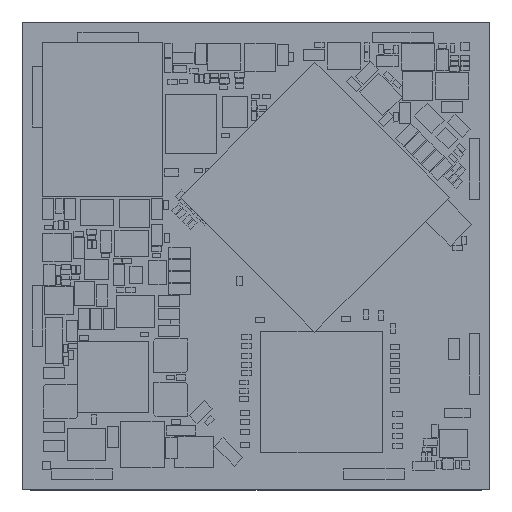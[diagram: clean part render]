
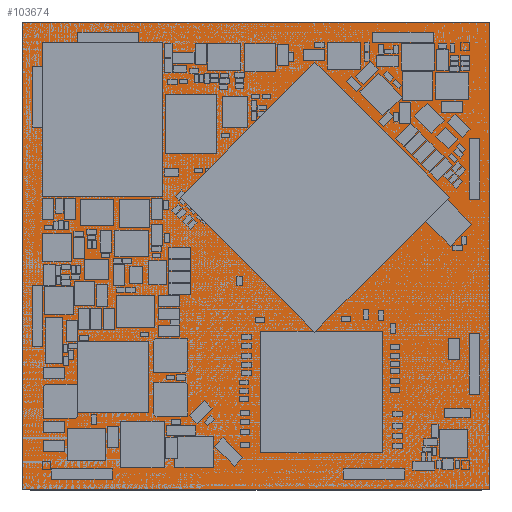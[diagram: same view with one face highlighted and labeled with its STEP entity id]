
A CAD part, top view. The second image highlights one B-rep face of the part: STEP entity #103674.
In plain terms, the highlighted planar face has unit normal (0, 0, 1).
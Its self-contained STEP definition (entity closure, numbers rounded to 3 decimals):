
#103360 = VERTEX_POINT('',#103361);
#103361 = CARTESIAN_POINT('',(0.026,-0.014,0.1));
#103368 = PLANE('',#103369);
#103369 = AXIS2_PLACEMENT_3D('',#103370,#103371,#103372);
#103370 = CARTESIAN_POINT('',(0.026,-0.014,0.));
#103371 = DIRECTION('',(1.,0.,0.));
#103372 = DIRECTION('',(0.,-1.,0.));
#103380 = PLANE('',#103381);
#103381 = AXIS2_PLACEMENT_3D('',#103382,#103383,#103384);
#103382 = CARTESIAN_POINT('',(55.036,-0.014,0.));
#103383 = DIRECTION('',(0.,-1.,0.));
#103384 = DIRECTION('',(-1.,0.,0.));
#103392 = EDGE_CURVE('',#103360,#103393,#103395,.T.);
#103393 = VERTEX_POINT('',#103394);
#103394 = CARTESIAN_POINT('',(0.026,-55.034,0.1));
#103395 = SURFACE_CURVE('',#103396,(#103400,#103407),.PCURVE_S1.);
#103396 = LINE('',#103397,#103398);
#103397 = CARTESIAN_POINT('',(0.026,-0.014,0.1));
#103398 = VECTOR('',#103399,1.);
#103399 = DIRECTION('',(0.,-1.,0.));
#103400 = PCURVE('',#103368,#103401);
#103401 = DEFINITIONAL_REPRESENTATION('',(#103402),#103406);
#103402 = LINE('',#103403,#103404);
#103403 = CARTESIAN_POINT('',(0.,-0.1));
#103404 = VECTOR('',#103405,1.);
#103405 = DIRECTION('',(1.,0.));
#103406 = ( GEOMETRIC_REPRESENTATION_CONTEXT(2) 
PARAMETRIC_REPRESENTATION_CONTEXT() REPRESENTATION_CONTEXT('2D SPACE',''
  ) );
#103407 = PCURVE('',#103408,#103413);
#103408 = PLANE('',#103409);
#103409 = AXIS2_PLACEMENT_3D('',#103410,#103411,#103412);
#103410 = CARTESIAN_POINT('',(27.531,-27.524,0.1));
#103411 = DIRECTION('',(0.,0.,1.));
#103412 = DIRECTION('',(1.,0.,0.));
#103413 = DEFINITIONAL_REPRESENTATION('',(#103414),#103418);
#103414 = LINE('',#103415,#103416);
#103415 = CARTESIAN_POINT('',(-27.505,27.51));
#103416 = VECTOR('',#103417,1.);
#103417 = DIRECTION('',(0.,-1.));
#103418 = ( GEOMETRIC_REPRESENTATION_CONTEXT(2) 
PARAMETRIC_REPRESENTATION_CONTEXT() REPRESENTATION_CONTEXT('2D SPACE',''
  ) );
#103436 = PLANE('',#103437);
#103437 = AXIS2_PLACEMENT_3D('',#103438,#103439,#103440);
#103438 = CARTESIAN_POINT('',(0.026,-55.034,0.));
#103439 = DIRECTION('',(0.,1.,0.));
#103440 = DIRECTION('',(1.,0.,0.));
#103478 = EDGE_CURVE('',#103393,#103479,#103481,.T.);
#103479 = VERTEX_POINT('',#103480);
#103480 = CARTESIAN_POINT('',(55.036,-55.034,0.1));
#103481 = SURFACE_CURVE('',#103482,(#103486,#103493),.PCURVE_S1.);
#103482 = LINE('',#103483,#103484);
#103483 = CARTESIAN_POINT('',(0.026,-55.034,0.1));
#103484 = VECTOR('',#103485,1.);
#103485 = DIRECTION('',(1.,0.,0.));
#103486 = PCURVE('',#103436,#103487);
#103487 = DEFINITIONAL_REPRESENTATION('',(#103488),#103492);
#103488 = LINE('',#103489,#103490);
#103489 = CARTESIAN_POINT('',(0.,-0.1));
#103490 = VECTOR('',#103491,1.);
#103491 = DIRECTION('',(1.,0.));
#103492 = ( GEOMETRIC_REPRESENTATION_CONTEXT(2) 
PARAMETRIC_REPRESENTATION_CONTEXT() REPRESENTATION_CONTEXT('2D SPACE',''
  ) );
#103493 = PCURVE('',#103408,#103494);
#103494 = DEFINITIONAL_REPRESENTATION('',(#103495),#103499);
#103495 = LINE('',#103496,#103497);
#103496 = CARTESIAN_POINT('',(-27.505,-27.51));
#103497 = VECTOR('',#103498,1.);
#103498 = DIRECTION('',(1.,0.));
#103499 = ( GEOMETRIC_REPRESENTATION_CONTEXT(2) 
PARAMETRIC_REPRESENTATION_CONTEXT() REPRESENTATION_CONTEXT('2D SPACE',''
  ) );
#103517 = PLANE('',#103518);
#103518 = AXIS2_PLACEMENT_3D('',#103519,#103520,#103521);
#103519 = CARTESIAN_POINT('',(55.036,-55.034,0.));
#103520 = DIRECTION('',(-1.,0.,0.));
#103521 = DIRECTION('',(0.,1.,0.));
#103554 = EDGE_CURVE('',#103479,#103555,#103557,.T.);
#103555 = VERTEX_POINT('',#103556);
#103556 = CARTESIAN_POINT('',(55.036,-0.014,0.1));
#103557 = SURFACE_CURVE('',#103558,(#103562,#103569),.PCURVE_S1.);
#103558 = LINE('',#103559,#103560);
#103559 = CARTESIAN_POINT('',(55.036,-55.034,0.1));
#103560 = VECTOR('',#103561,1.);
#103561 = DIRECTION('',(0.,1.,0.));
#103562 = PCURVE('',#103517,#103563);
#103563 = DEFINITIONAL_REPRESENTATION('',(#103564),#103568);
#103564 = LINE('',#103565,#103566);
#103565 = CARTESIAN_POINT('',(0.,-0.1));
#103566 = VECTOR('',#103567,1.);
#103567 = DIRECTION('',(1.,0.));
#103568 = ( GEOMETRIC_REPRESENTATION_CONTEXT(2) 
PARAMETRIC_REPRESENTATION_CONTEXT() REPRESENTATION_CONTEXT('2D SPACE',''
  ) );
#103569 = PCURVE('',#103408,#103570);
#103570 = DEFINITIONAL_REPRESENTATION('',(#103571),#103575);
#103571 = LINE('',#103572,#103573);
#103572 = CARTESIAN_POINT('',(27.505,-27.51));
#103573 = VECTOR('',#103574,1.);
#103574 = DIRECTION('',(0.,1.));
#103575 = ( GEOMETRIC_REPRESENTATION_CONTEXT(2) 
PARAMETRIC_REPRESENTATION_CONTEXT() REPRESENTATION_CONTEXT('2D SPACE',''
  ) );
#103625 = EDGE_CURVE('',#103555,#103360,#103626,.T.);
#103626 = SURFACE_CURVE('',#103627,(#103631,#103638),.PCURVE_S1.);
#103627 = LINE('',#103628,#103629);
#103628 = CARTESIAN_POINT('',(55.036,-0.014,0.1));
#103629 = VECTOR('',#103630,1.);
#103630 = DIRECTION('',(-1.,0.,0.));
#103631 = PCURVE('',#103380,#103632);
#103632 = DEFINITIONAL_REPRESENTATION('',(#103633),#103637);
#103633 = LINE('',#103634,#103635);
#103634 = CARTESIAN_POINT('',(0.,-0.1));
#103635 = VECTOR('',#103636,1.);
#103636 = DIRECTION('',(1.,0.));
#103637 = ( GEOMETRIC_REPRESENTATION_CONTEXT(2) 
PARAMETRIC_REPRESENTATION_CONTEXT() REPRESENTATION_CONTEXT('2D SPACE',''
  ) );
#103638 = PCURVE('',#103408,#103639);
#103639 = DEFINITIONAL_REPRESENTATION('',(#103640),#103644);
#103640 = LINE('',#103641,#103642);
#103641 = CARTESIAN_POINT('',(27.505,27.51));
#103642 = VECTOR('',#103643,1.);
#103643 = DIRECTION('',(-1.,0.));
#103644 = ( GEOMETRIC_REPRESENTATION_CONTEXT(2) 
PARAMETRIC_REPRESENTATION_CONTEXT() REPRESENTATION_CONTEXT('2D SPACE',''
  ) );
#103674 = ADVANCED_FACE('',(#103675),#103408,.T.);
#103675 = FACE_BOUND('',#103676,.T.);
#103676 = EDGE_LOOP('',(#103677,#103678,#103679,#103680));
#103677 = ORIENTED_EDGE('',*,*,#103392,.T.);
#103678 = ORIENTED_EDGE('',*,*,#103478,.T.);
#103679 = ORIENTED_EDGE('',*,*,#103554,.T.);
#103680 = ORIENTED_EDGE('',*,*,#103625,.T.);
